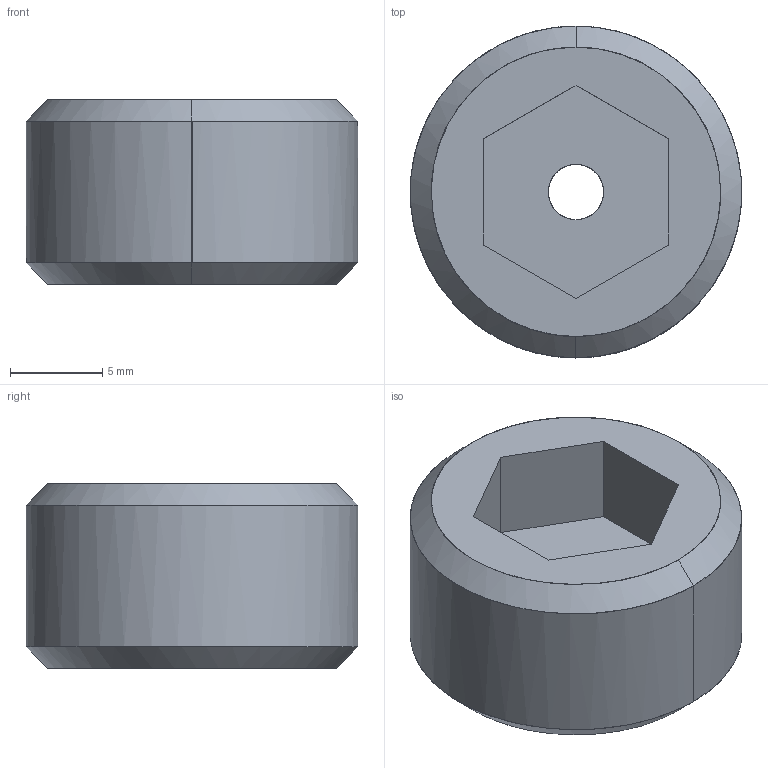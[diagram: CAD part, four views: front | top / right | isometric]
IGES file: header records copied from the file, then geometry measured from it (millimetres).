
Global section: file name: E:\UnigraphicsGraphicData\MISUMI_PRESS-PARTS\IGES\3d_mswh18_00461_r00.igs; native system: NX V5.0; preprocessor: UGS NX IGES V5.0; author: MISUMI; date: 20110105.161523; units: millimetre
Bounding box: 17.97 x 18 x 10 mm (x, y, z)
Surface area: 1202.2 mm2 (no closed solid volume)
Topology: 0 solids, 0 shells, 17 faces, 100 edges, 100 vertices
Faces by surface type: bspline 17
